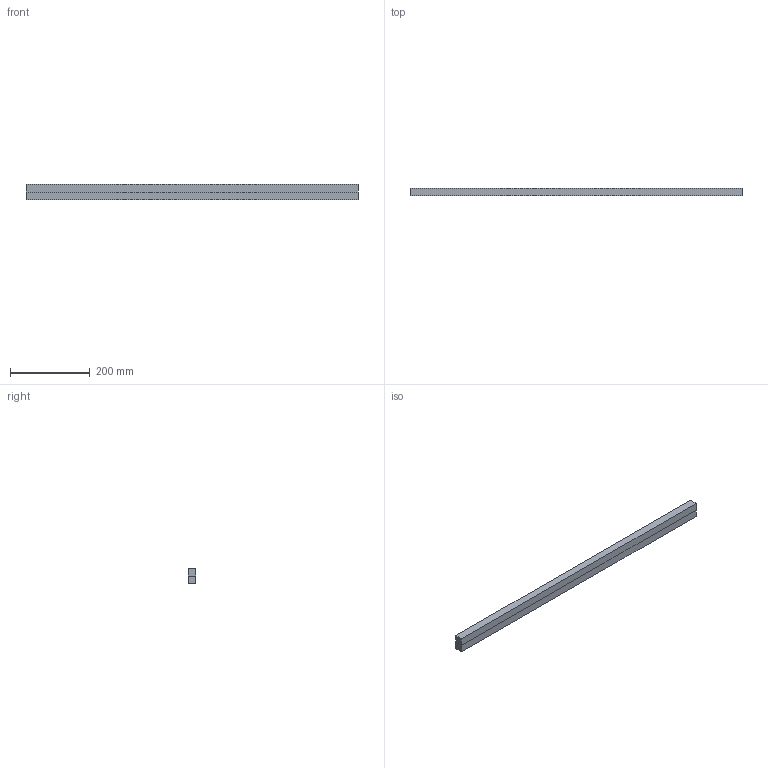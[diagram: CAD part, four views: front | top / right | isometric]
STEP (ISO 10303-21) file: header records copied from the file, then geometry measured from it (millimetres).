
FILE_DESCRIPTION (( 'STEP AP203' ), '1' );
FILE_NAME ('R5NFPC1000.STEP', '2024-05-15T12:00:20', ( '' ), ( '' ), 'SwSTEP 2.0', 'SolidWorks 2022', '' );
FILE_SCHEMA (( 'CONFIG_CONTROL_DESIGN' ));
Length unit declared in the file: millimetre
Products named in the file (2): RB.3011.00.00.0_-03; R5NFPC1000
Assembly tree (2 placements, depth 2):
  R5NFPC1000
    RB.3011.00.00.0_-03  x2
Bounding box: 834 x 20 x 40 mm (x, y, z)
Volume: 667200 mm3; surface area: 135040 mm2
Topology: 2 solids, 2 shells, 12 faces, 24 edges, 16 vertices
Faces by surface type: plane 12
Entity records: 384 total; most frequent: DIRECTION 34, CARTESIAN_POINT 31, ORIENTED_EDGE 24, PERSON_AND_ORGANIZATION 18, CALENDAR_DATE 14, LOCAL_TIME 14, DATE_AND_TIME 14, COORDINATED_UNIVERSAL_TIME_OFFSET 14
